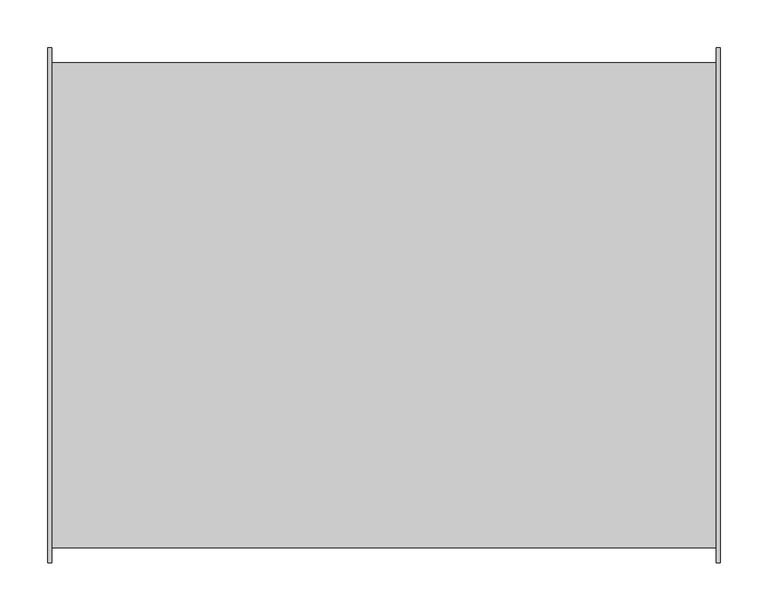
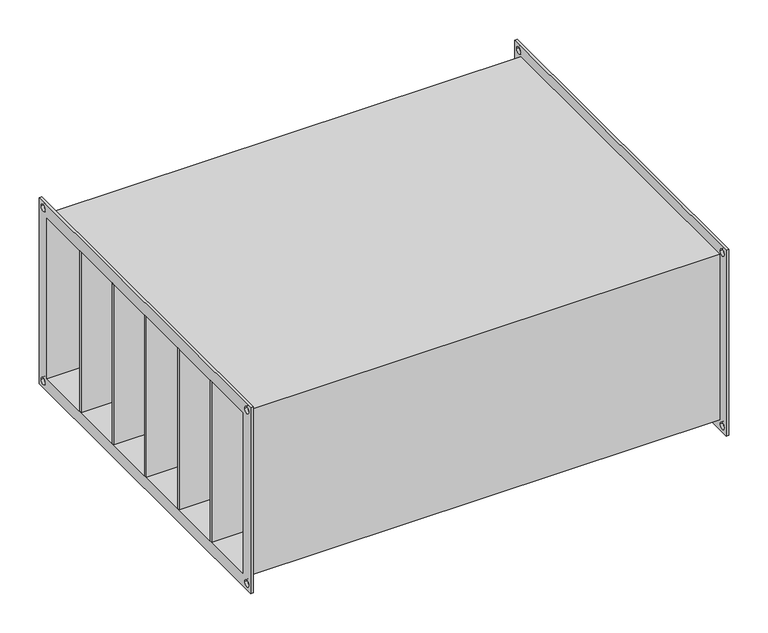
"""IFC4 building model written with IfcOpenShell, lengths in millimetres: damper geometry, СВ_ФильтрКарманный_КанальныйПрямоугольный_200-1000_SFPK : SFPK-500x250."""

from ifc_helpers import new_model, si_unit, frame, origin, place, context, project, spatial, polyline, circle_curve, outline, extrude, source, transform, mapped, element, save
from ifc_brep_helpers import plane_surface, revolved_surface, advanced_brep


def damper_089dc460(model_context):
    return source(origin(), model_context, "Body", "SolidModel", [
        extrude(outline(polyline([(352.5, 166.6666667), (352.5, 162.6666667), (-352.5, 162.6666667), (-352.5, 166.6666667), (352.5, 166.6666667)])), frame((0.0, 0.0, -125.0), z_axis=(0.0, 0.0, 1.0), x_axis=(1.0, 0.0, 0.0)), (0.0, 0.0, 1.0), 250.0),
        extrude(outline(polyline([(352.5, 83.3333333), (352.5, 79.3333333), (-352.5, 79.3333333), (-352.5, 83.3333333), (352.5, 83.3333333)])), frame((0.0, 0.0, -125.0), z_axis=(0.0, 0.0, 1.0), x_axis=(1.0, 0.0, 0.0)), (0.0, 0.0, 1.0), 250.0),
        extrude(outline(polyline([(352.5, 0.0), (352.5, -4.0), (-352.5, -4.0), (-352.5, 0.0), (352.5, 0.0)])), frame((0.0, 0.0, -125.0), z_axis=(0.0, 0.0, 1.0), x_axis=(1.0, 0.0, 0.0)), (0.0, 0.0, 1.0), 250.0),
        extrude(outline(polyline([(352.5, -83.3333333), (352.5, -87.3333333), (-352.5, -87.3333333), (-352.5, -83.3333333), (352.5, -83.3333333)])), frame((0.0, 0.0, -125.0), z_axis=(0.0, 0.0, 1.0), x_axis=(1.0, 0.0, 0.0)), (0.0, 0.0, 1.0), 250.0),
        extrude(outline(polyline([(352.5, -166.6666667), (352.5, -170.6666667), (-352.5, -170.6666667), (-352.5, -166.6666667), (352.5, -166.6666667)])), frame((0.0, 0.0, -125.0), z_axis=(0.0, 0.0, 1.0), x_axis=(1.0, 0.0, 0.0)), (0.0, 0.0, 1.0), 250.0),
        advanced_brep(
        [(348.5, -254.0, 129.0), (-348.5, -254.0, 129.0), (-348.5, -254.0, -129.0), (348.5, -254.0, -129.0), (-348.5, 254.0, -129.0), (348.5, 254.0, -129.0), (-348.5, 254.0, 129.0), (348.5, 254.0, 129.0), (-352.5, -270.0, 145.0), (-352.5, 270.0, 145.0), (-352.5, 270.0, -145.0), (-352.5, -270.0, -145.0), (-352.5, -250.0, 125.0), (-352.5, -250.0, -125.0), (-352.5, 250.0, -125.0), (-352.5, 250.0, 125.0), (-352.5, 255.0, 135.0), (-352.5, 265.0, 135.0), (-352.5, -265.0, 135.0), (-352.5, -255.0, 135.0), (-352.5, -265.0, -135.0), (-352.5, -255.0, -135.0), (-352.5, 255.0, -135.0), (-352.5, 265.0, -135.0), (-348.5, -270.0, 145.0), (-348.5, -270.0, -145.0), (-348.5, 270.0, -145.0), (-348.5, 270.0, 145.0), (-348.5, 265.0, 135.0), (-348.5, 255.0, 135.0), (-348.5, -255.0, 135.0), (-348.5, -265.0, 135.0), (-348.5, -255.0, -135.0), (-348.5, -265.0, -135.0), (-348.5, 265.0, -135.0), (-348.5, 255.0, -135.0), (348.5, 270.0, 145.0), (348.5, 270.0, -145.0), (348.5, -270.0, -145.0), (348.5, -270.0, 145.0), (348.5, 255.0, 135.0), (348.5, 265.0, 135.0), (348.5, -265.0, 135.0), (348.5, -255.0, 135.0), (348.5, -265.0, -135.0), (348.5, -255.0, -135.0), (348.5, 255.0, -135.0), (348.5, 265.0, -135.0), (352.5, 270.0, 145.0), (352.5, -270.0, 145.0), (352.5, -270.0, -145.0), (352.5, 270.0, -145.0), (352.5, 250.0, 125.0), (352.5, 250.0, -125.0), (352.5, -250.0, -125.0), (352.5, -250.0, 125.0), (352.5, 265.0, 135.0), (352.5, 255.0, 135.0), (352.5, -255.0, 135.0), (352.5, -265.0, 135.0), (352.5, -255.0, -135.0), (352.5, -265.0, -135.0), (352.5, 265.0, -135.0), (352.5, 255.0, -135.0)],
        [
            (0, 1),
            (1, 2),
            (2, 3),
            (3, 0),
            (2, 4),
            (4, 5),
            (5, 3),
            (4, 6),
            (6, 7),
            (7, 5),
            (0, 7),
            (6, 1),
            (8, 9),
            (9, 10),
            (10, 11),
            (11, 8),
            (12, 13),
            (13, 14),
            (14, 15),
            (15, 12),
            (16, 17, circle_curve(frame((-352.5, 260.0, 135.0), z_axis=(1.0, 0.0, 0.0), x_axis=(0.0, 1.0, 0.0)), 5.0)),
            (17, 16, circle_curve(frame((-352.5, 260.0, 135.0), z_axis=(1.0, 0.0, 0.0), x_axis=(0.0, 1.0, 0.0)), 5.0)),
            (18, 19, circle_curve(frame((-352.5, -260.0, 135.0), z_axis=(1.0, 0.0, 0.0), x_axis=(0.0, 1.0, 0.0)), 5.0)),
            (19, 18, circle_curve(frame((-352.5, -260.0, 135.0), z_axis=(1.0, 0.0, 0.0), x_axis=(0.0, 1.0, 0.0)), 5.0)),
            (20, 21, circle_curve(frame((-352.5, -260.0, -135.0), z_axis=(1.0, 0.0, 0.0), x_axis=(0.0, 1.0, 0.0)), 5.0)),
            (21, 20, circle_curve(frame((-352.5, -260.0, -135.0), z_axis=(1.0, 0.0, 0.0), x_axis=(0.0, 1.0, 0.0)), 5.0)),
            (22, 23, circle_curve(frame((-352.5, 260.0, -135.0), z_axis=(1.0, 0.0, 0.0), x_axis=(0.0, 1.0, 0.0)), 5.0)),
            (23, 22, circle_curve(frame((-352.5, 260.0, -135.0), z_axis=(1.0, 0.0, 0.0), x_axis=(0.0, 1.0, 0.0)), 5.0)),
            (24, 25),
            (25, 26),
            (26, 27),
            (27, 24),
            (28, 29, circle_curve(frame((-348.5, 260.0, 135.0), z_axis=(-1.0, 0.0, 0.0), x_axis=(0.0, 1.0, 0.0)), 5.0)),
            (29, 28, circle_curve(frame((-348.5, 260.0, 135.0), z_axis=(-1.0, 0.0, 0.0), x_axis=(0.0, 1.0, 0.0)), 5.0)),
            (30, 31, circle_curve(frame((-348.5, -260.0, 135.0), z_axis=(-1.0, 0.0, 0.0), x_axis=(0.0, 1.0, 0.0)), 5.0)),
            (31, 30, circle_curve(frame((-348.5, -260.0, 135.0), z_axis=(-1.0, 0.0, 0.0), x_axis=(0.0, 1.0, 0.0)), 5.0)),
            (32, 33, circle_curve(frame((-348.5, -260.0, -135.0), z_axis=(-1.0, 0.0, 0.0), x_axis=(0.0, 1.0, 0.0)), 5.0)),
            (33, 32, circle_curve(frame((-348.5, -260.0, -135.0), z_axis=(-1.0, 0.0, 0.0), x_axis=(0.0, 1.0, 0.0)), 5.0)),
            (34, 35, circle_curve(frame((-348.5, 260.0, -135.0), z_axis=(-1.0, 0.0, 0.0), x_axis=(0.0, 1.0, 0.0)), 5.0)),
            (35, 34, circle_curve(frame((-348.5, 260.0, -135.0), z_axis=(-1.0, 0.0, 0.0), x_axis=(0.0, 1.0, 0.0)), 5.0)),
            (11, 25),
            (24, 8),
            (10, 26),
            (9, 27),
            (36, 37),
            (37, 38),
            (38, 39),
            (39, 36),
            (40, 41, circle_curve(frame((348.5, 260.0, 135.0), z_axis=(1.0, 0.0, 0.0), x_axis=(0.0, 1.0, 0.0)), 5.0)),
            (41, 40, circle_curve(frame((348.5, 260.0, 135.0), z_axis=(1.0, 0.0, 0.0), x_axis=(0.0, 1.0, 0.0)), 5.0)),
            (42, 43, circle_curve(frame((348.5, -260.0, 135.0), z_axis=(1.0, 0.0, 0.0), x_axis=(0.0, 1.0, 0.0)), 5.0)),
            (43, 42, circle_curve(frame((348.5, -260.0, 135.0), z_axis=(1.0, 0.0, 0.0), x_axis=(0.0, 1.0, 0.0)), 5.0)),
            (44, 45, circle_curve(frame((348.5, -260.0, -135.0), z_axis=(1.0, 0.0, 0.0), x_axis=(0.0, 1.0, 0.0)), 5.0)),
            (45, 44, circle_curve(frame((348.5, -260.0, -135.0), z_axis=(1.0, 0.0, 0.0), x_axis=(0.0, 1.0, 0.0)), 5.0)),
            (46, 47, circle_curve(frame((348.5, 260.0, -135.0), z_axis=(1.0, 0.0, 0.0), x_axis=(0.0, 1.0, 0.0)), 5.0)),
            (47, 46, circle_curve(frame((348.5, 260.0, -135.0), z_axis=(1.0, 0.0, 0.0), x_axis=(0.0, 1.0, 0.0)), 5.0)),
            (48, 49),
            (49, 50),
            (50, 51),
            (51, 48),
            (52, 53),
            (53, 54),
            (54, 55),
            (55, 52),
            (56, 57, circle_curve(frame((352.5, 260.0, 135.0), z_axis=(-1.0, 0.0, 0.0), x_axis=(0.0, 1.0, 0.0)), 5.0)),
            (57, 56, circle_curve(frame((352.5, 260.0, 135.0), z_axis=(-1.0, 0.0, 0.0), x_axis=(0.0, 1.0, 0.0)), 5.0)),
            (58, 59, circle_curve(frame((352.5, -260.0, 135.0), z_axis=(-1.0, 0.0, 0.0), x_axis=(0.0, 1.0, 0.0)), 5.0)),
            (59, 58, circle_curve(frame((352.5, -260.0, 135.0), z_axis=(-1.0, 0.0, 0.0), x_axis=(0.0, 1.0, 0.0)), 5.0)),
            (60, 61, circle_curve(frame((352.5, -260.0, -135.0), z_axis=(-1.0, 0.0, 0.0), x_axis=(0.0, 1.0, 0.0)), 5.0)),
            (61, 60, circle_curve(frame((352.5, -260.0, -135.0), z_axis=(-1.0, 0.0, 0.0), x_axis=(0.0, 1.0, 0.0)), 5.0)),
            (62, 63, circle_curve(frame((352.5, 260.0, -135.0), z_axis=(-1.0, 0.0, 0.0), x_axis=(0.0, 1.0, 0.0)), 5.0)),
            (63, 62, circle_curve(frame((352.5, 260.0, -135.0), z_axis=(-1.0, 0.0, 0.0), x_axis=(0.0, 1.0, 0.0)), 5.0)),
            (39, 49),
            (48, 36),
            (38, 50),
            (37, 51),
            (15, 52),
            (55, 12),
            (14, 53),
            (13, 54),
            (16, 29),
            (28, 17),
            (40, 57),
            (56, 41),
            (18, 31),
            (30, 19),
            (42, 59),
            (58, 43),
            (20, 33),
            (32, 21),
            (44, 61),
            (60, 45),
            (22, 35),
            (34, 23),
            (46, 63),
            (62, 47),
        ],
        [
            plane_surface(frame((348.5, -254.0, 129.0), z_axis=(0.0, -1.0, 0.0), x_axis=(-1.0, 0.0, 0.0))),
            plane_surface(frame((348.5, -254.0, -129.0), z_axis=(0.0, 0.0, -1.0), x_axis=(-1.0, 0.0, 0.0))),
            plane_surface(frame((348.5, 254.0, -129.0), z_axis=(0.0, 1.0, 0.0), x_axis=(-1.0, 0.0, 0.0))),
            plane_surface(frame((348.5, 254.0, 129.0), z_axis=(0.0, 0.0, 1.0), x_axis=(-1.0, 0.0, 0.0))),
            plane_surface(frame((-352.5, -270.0, 145.0), z_axis=(-1.0, 0.0, 0.0), x_axis=(0.0, 0.0, 1.0))),
            plane_surface(frame((-348.5, -270.0, 145.0), z_axis=(1.0, 0.0, 0.0), x_axis=(0.0, 0.0, -1.0))),
            plane_surface(frame((-348.5, -270.0, 145.0), z_axis=(0.0, -1.0, 0.0), x_axis=(-1.0, 0.0, 0.0))),
            plane_surface(frame((-348.5, -270.0, -145.0), z_axis=(0.0, 0.0, -1.0), x_axis=(-1.0, 0.0, 0.0))),
            plane_surface(frame((-348.5, 270.0, -145.0), z_axis=(0.0, 1.0, 0.0), x_axis=(-1.0, 0.0, 0.0))),
            plane_surface(frame((-348.5, 270.0, 145.0), z_axis=(0.0, 0.0, 1.0), x_axis=(-1.0, 0.0, 0.0))),
            plane_surface(frame((348.5, 250.0, -125.0), z_axis=(-1.0, 0.0, 0.0), x_axis=(0.0, 0.0, 1.0))),
            plane_surface(frame((352.5, 250.0, -125.0), z_axis=(1.0, 0.0, 0.0), x_axis=(0.0, 0.0, -1.0))),
            plane_surface(frame((352.5, 270.0, 145.0), z_axis=(0.0, 0.0, 1.0), x_axis=(-1.0, 0.0, 0.0))),
            plane_surface(frame((352.5, -270.0, 145.0), z_axis=(0.0, -1.0, 0.0), x_axis=(-1.0, 0.0, 0.0))),
            plane_surface(frame((352.5, -270.0, -145.0), z_axis=(0.0, 0.0, -1.0), x_axis=(-1.0, 0.0, 0.0))),
            plane_surface(frame((352.5, 270.0, -145.0), z_axis=(0.0, 1.0, 0.0), x_axis=(-1.0, 0.0, 0.0))),
            plane_surface(frame((-348.5, -250.0, 125.0), z_axis=(0.0, 0.0, -1.0), x_axis=(-1.0, 0.0, 0.0))),
            plane_surface(frame((-348.5, 250.0, 125.0), z_axis=(0.0, -1.0, 0.0), x_axis=(-1.0, 0.0, 0.0))),
            plane_surface(frame((-348.5, 250.0, -125.0), z_axis=(0.0, 0.0, 1.0), x_axis=(-1.0, 0.0, 0.0))),
            plane_surface(frame((-348.5, -250.0, -125.0), z_axis=(0.0, 1.0, 0.0), x_axis=(-1.0, 0.0, 0.0))),
            revolved_surface(polyline([(-348.5, 265.0, 135.0), (-352.5, 265.0, 135.0)]), (-352.5, 260.0, 135.0), (1.0, 0.0, 0.0)),
            revolved_surface(polyline([(352.5, 265.0, 135.0), (348.5, 265.0, 135.0)]), (-352.5, 260.0, 135.0), (1.0, 0.0, 0.0)),
            revolved_surface(polyline([(-348.5, -255.0, 135.0), (-352.5, -255.0, 135.0)]), (0.0, -260.0, 135.0), (1.0, 0.0, 0.0)),
            revolved_surface(polyline([(352.5, -255.0, 135.0), (348.5, -255.0, 135.0)]), (0.0, -260.0, 135.0), (1.0, 0.0, 0.0)),
            revolved_surface(polyline([(-348.5, -255.0, -135.0), (-352.5, -255.0, -135.0)]), (0.0, -260.0, -135.0), (1.0, 0.0, 0.0)),
            revolved_surface(polyline([(352.5, -255.0, -135.0), (348.5, -255.0, -135.0)]), (0.0, -260.0, -135.0), (1.0, 0.0, 0.0)),
            revolved_surface(polyline([(-348.5, 265.0, -135.0), (-352.5, 265.0, -135.0)]), (0.0, 260.0, -135.0), (1.0, 0.0, 0.0)),
            revolved_surface(polyline([(352.5, 265.0, -135.0), (348.5, 265.0, -135.0)]), (0.0, 260.0, -135.0), (1.0, 0.0, 0.0)),
        ],
        [
            (0, [[1, 2, 3, 4]]),
            (1, [[-3, 5, 6, 7]]),
            (2, [[-6, 8, 9, 10]]),
            (3, [[-1, 11, -9, 12]]),
            (4, [[13, 14, 15, 16], [17, 18, 19, 20], [21, 22], [23, 24], [25, 26], [27, 28]]),
            (5, [[29, 30, 31, 32], [-2, -12, -8, -5], [33, 34], [35, 36], [37, 38], [39, 40]]),
            (6, [[-16, 41, -29, 42]]),
            (7, [[-15, 43, -30, -41]]),
            (8, [[-14, 44, -31, -43]]),
            (9, [[-13, -42, -32, -44]]),
            (10, [[45, 46, 47, 48], [-4, -7, -10, -11], [49, 50], [51, 52], [53, 54], [55, 56]]),
            (11, [[57, 58, 59, 60], [61, 62, 63, 64], [65, 66], [67, 68], [69, 70], [71, 72]]),
            (12, [[-48, 73, -57, 74]]),
            (13, [[-47, 75, -58, -73]]),
            (14, [[-46, 76, -59, -75]]),
            (15, [[-45, -74, -60, -76]]),
            (16, [[-20, 77, -64, 78]]),
            (17, [[-77, -19, 79, -61]]),
            (18, [[-79, -18, 80, -62]]),
            (19, [[-80, -17, -78, -63]]),
            (20, [[81, -33, 82, -21]]),
            (21, [[83, -65, 84, -49]]),
            (20, [[-81, -22, -82, -34]]),
            (21, [[-83, -50, -84, -66]]),
            (22, [[85, -35, 86, -23]]),
            (23, [[87, -67, 88, -51]]),
            (22, [[-85, -24, -86, -36]]),
            (23, [[-87, -52, -88, -68]]),
            (24, [[89, -37, 90, -25]]),
            (25, [[91, -69, 92, -53]]),
            (24, [[-89, -26, -90, -38]]),
            (25, [[-91, -54, -92, -70]]),
            (26, [[93, -39, 94, -27]]),
            (27, [[95, -71, 96, -55]]),
            (26, [[-93, -28, -94, -40]]),
            (27, [[-95, -56, -96, -72]]),
        ],
    ),
    ])


if __name__ == "__main__":
    model = new_model("IFC4")
    model_context = context("Model", 3, world=origin())
    ifc_project = project(units=[si_unit("LENGTHUNIT", "METRE", prefix="MILLI")], contexts=[model_context])
    site = spatial("IfcSite", under=ifc_project)
    building = spatial("IfcBuilding", under=site)
    placement = place(None, origin())
    damper_shape = damper_089dc460(model_context)
    element("IfcDamper", 1, ObjectType="СВ_ФильтрКарманный_КанальныйПрямоугольный_200-1000_SFPK : SFPK-500x250", at=placement, inside=building, context=model_context, shape_type="MappedRepresentation", body=[
        mapped(damper_shape, transform((0.0, 0.0, 0.0), x_axis=(1.0, 0.0, 0.0), y_axis=(0.0, 1.0, 0.0), z_axis=(0.0, 0.0, 1.0))),
    ])
    save(model, "model.ifc")
